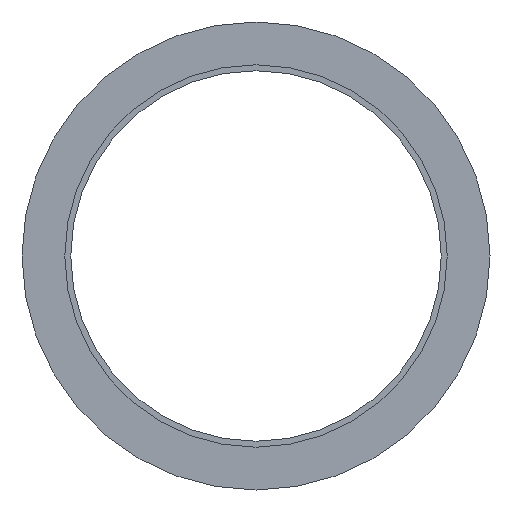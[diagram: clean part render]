
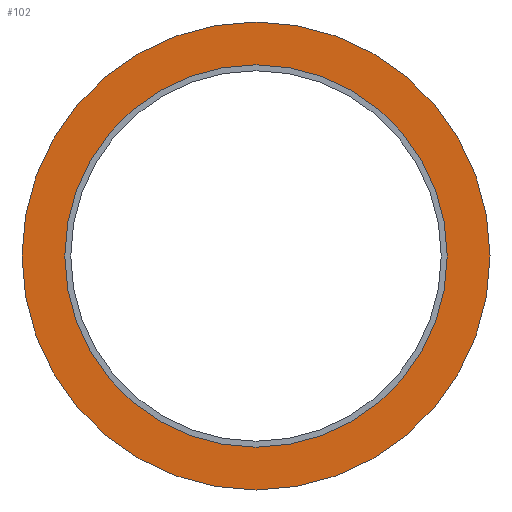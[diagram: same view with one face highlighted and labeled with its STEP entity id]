
A CAD part, left-side view. The second image highlights one B-rep face of the part: STEP entity #102.
In plain terms, the highlighted planar face has unit normal (-1, 0, 0).
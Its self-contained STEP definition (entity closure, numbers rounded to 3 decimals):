
#2 = PLANE ( 'NONE',  #389 ) ;
#5 = EDGE_LOOP ( 'NONE', ( #323, #361 ) ) ;
#20 = CARTESIAN_POINT ( 'NONE',  ( -2.985, -0.153, 0. ) ) ;
#25 = AXIS2_PLACEMENT_3D ( 'NONE', #354, #59, #200 ) ;
#26 = CARTESIAN_POINT ( 'NONE',  ( -2.985, -0.153, 9.805 ) ) ;
#28 = AXIS2_PLACEMENT_3D ( 'NONE', #77, #268, #181 ) ;
#33 = DIRECTION ( 'NONE',  ( 0., 0., 1. ) ) ;
#38 = CIRCLE ( 'NONE', #25, 12. ) ;
#47 = ORIENTED_EDGE ( 'NONE', *, *, #198, .T. ) ;
#53 = AXIS2_PLACEMENT_3D ( 'NONE', #20, #109, #215 ) ;
#55 = CARTESIAN_POINT ( 'NONE',  ( -2.985, -0.153, -9.805 ) ) ;
#59 = DIRECTION ( 'NONE',  ( 1., 0., 0. ) ) ;
#60 = VERTEX_POINT ( 'NONE', #231 ) ;
#77 = CARTESIAN_POINT ( 'NONE',  ( -2.985, -0.153, 0. ) ) ;
#99 = DIRECTION ( 'NONE',  ( -1., 0., 0. ) ) ;
#102 = ADVANCED_FACE ( 'NONE', ( #297, #233 ), #2, .T. ) ;
#109 = DIRECTION ( 'NONE',  ( 1., 0., 0. ) ) ;
#118 = AXIS2_PLACEMENT_3D ( 'NONE', #320, #218, #306 ) ;
#138 = ORIENTED_EDGE ( 'NONE', *, *, #202, .T. ) ;
#139 = EDGE_CURVE ( 'NONE', #60, #321, #38, .T. ) ;
#149 = CARTESIAN_POINT ( 'NONE',  ( -2.985, -0.153, -12. ) ) ;
#150 = VERTEX_POINT ( 'NONE', #55 ) ;
#154 = CIRCLE ( 'NONE', #28, 9.805 ) ;
#181 = DIRECTION ( 'NONE',  ( 0., 0., -1. ) ) ;
#193 = CIRCLE ( 'NONE', #53, 9.805 ) ;
#198 = EDGE_CURVE ( 'NONE', #279, #150, #193, .T. ) ;
#200 = DIRECTION ( 'NONE',  ( 0., 0., -1. ) ) ;
#202 = EDGE_CURVE ( 'NONE', #150, #279, #154, .T. ) ;
#214 = EDGE_LOOP ( 'NONE', ( #138, #47 ) ) ;
#215 = DIRECTION ( 'NONE',  ( 0., 0., -1. ) ) ;
#218 = DIRECTION ( 'NONE',  ( 1., 0., 0. ) ) ;
#231 = CARTESIAN_POINT ( 'NONE',  ( -2.985, -0.153, 12. ) ) ;
#233 = FACE_OUTER_BOUND ( 'NONE', #5, .T. ) ;
#268 = DIRECTION ( 'NONE',  ( 1., 0., 0. ) ) ;
#279 = VERTEX_POINT ( 'NONE', #26 ) ;
#297 = FACE_BOUND ( 'NONE', #214, .T. ) ;
#306 = DIRECTION ( 'NONE',  ( 0., 0., -1. ) ) ;
#307 = EDGE_CURVE ( 'NONE', #321, #60, #408, .T. ) ;
#320 = CARTESIAN_POINT ( 'NONE',  ( -2.985, -0.153, 0. ) ) ;
#321 = VERTEX_POINT ( 'NONE', #149 ) ;
#323 = ORIENTED_EDGE ( 'NONE', *, *, #307, .F. ) ;
#354 = CARTESIAN_POINT ( 'NONE',  ( -2.985, -0.153, 0. ) ) ;
#361 = ORIENTED_EDGE ( 'NONE', *, *, #139, .F. ) ;
#389 = AXIS2_PLACEMENT_3D ( 'NONE', #409, #99, #33 ) ;
#408 = CIRCLE ( 'NONE', #118, 12. ) ;
#409 = CARTESIAN_POINT ( 'NONE',  ( -2.985, -0.153, 0. ) ) ;
